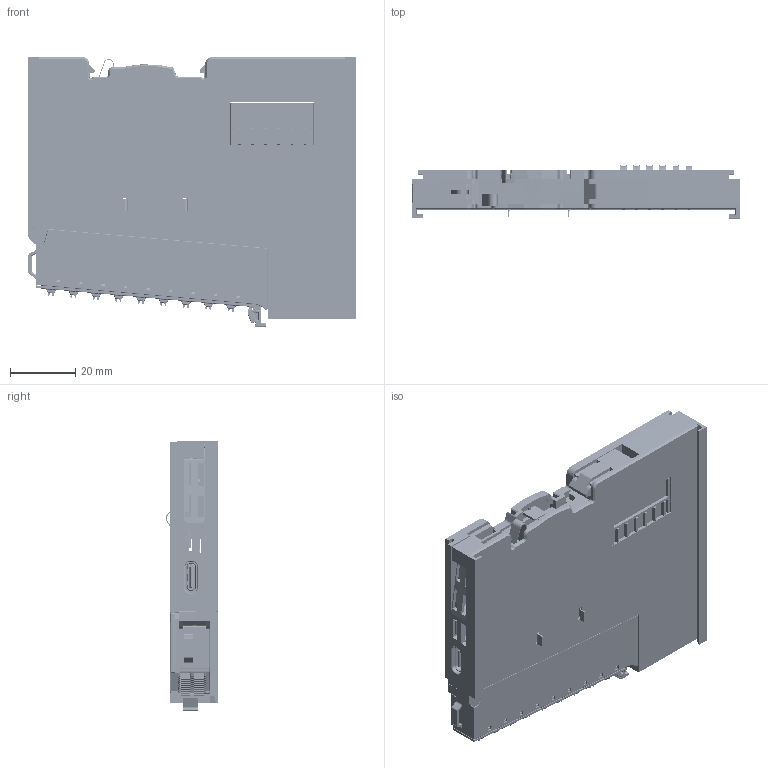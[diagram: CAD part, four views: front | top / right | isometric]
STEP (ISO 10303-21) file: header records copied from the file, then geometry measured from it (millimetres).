
FILE_DESCRIPTION((''),'2;1');
FILE_NAME('00-IO16_ASM','2024-09-29T',('zhong'),(''),'CREO PARAMETRIC BY PTC INC, 2016050','CREO PARAMETRIC BY PTC INC, 2016050','');
FILE_SCHEMA(('CONFIG_CONTROL_DESIGN'));
Products named in the file (17): IO16-BACK-CASE; IO16-FRONT-CASE; IO-LIGHT; IO-SEAT-LIGHT; IO-LIGHT-PIPE; IO-LIGHT_ASM; PULLING-BUCKLE; 00-IO16-MD_ASM; DF700-300-5-C-18P-13-00Z_H_-C11; DF700-RM_; PCB-2; 16-; DF750_200_-JP; SHELL; DGKYDTYPEC16A5A1Y3W1SI125; PCB-2_ASM; 00-IO16_ASM
Assembly tree (18 placements, depth 4):
  00-IO16_ASM
    00-IO16-MD_ASM
      IO16-BACK-CASE
      IO16-FRONT-CASE
      IO-LIGHT
      IO-LIGHT_ASM
        IO-SEAT-LIGHT
        IO-LIGHT-PIPE  x2
      PULLING-BUCKLE
    DF700-300-5-C-18P-13-00Z_H_-C11
    DF700-RM_
    PCB-2_ASM
      PCB-2
      16-
      DF750_200_-JP  x2
      SHELL
      DGKYDTYPEC16A5A1Y3W1SI125
Bounding box: 100.02 x 16.11 x 82.49 mm (x, y, z)
Volume: 46969.4 mm3; surface area: 72629.2 mm2
Topology: 15 solids, 45 shells, 8503 faces, 23691 edges, 14961 vertices
Faces by surface type: plane 5369, cylinder 2179, sphere 326, bspline 301, cone 165, torus 109, extrusion 54
Entity records: 331154 total; most frequent: CARTESIAN_POINT 69475, ORIENTED_EDGE 45814, DIRECTION 42075, EDGE_CURVE 22907, VECTOR 16787, LINE 16733, VERTEX_POINT 14611, AXIS2_PLACEMENT_3D 12644
